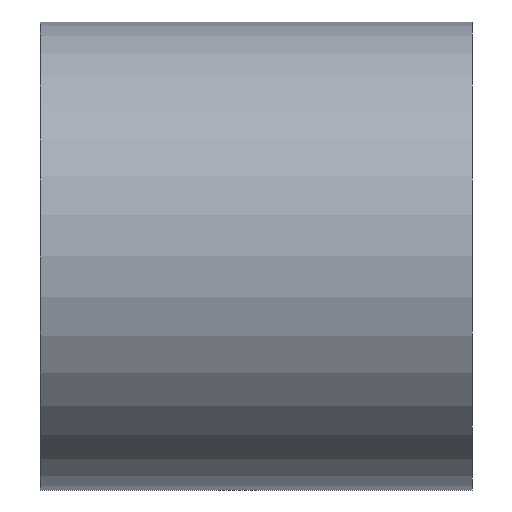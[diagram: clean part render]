
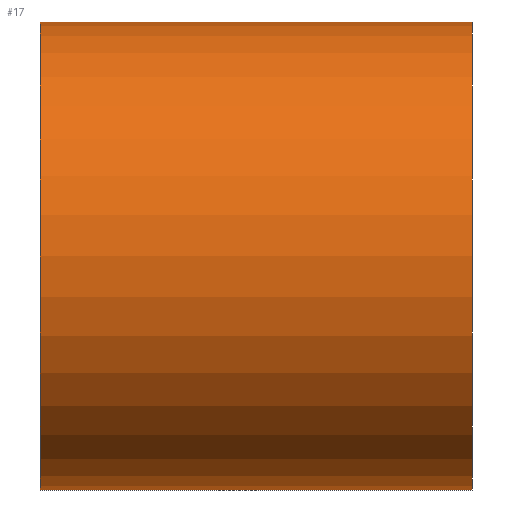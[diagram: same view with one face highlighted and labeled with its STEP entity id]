
A CAD part, front view. The second image highlights one B-rep face of the part: STEP entity #17.
In plain terms, the highlighted cylindrical face has radius 6.5 mm (diameter 13 mm), a full revolution.
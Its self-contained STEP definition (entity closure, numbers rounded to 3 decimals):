
#17 = ADVANCED_FACE('',(#18),#45,.T.);
#18 = FACE_BOUND('',#19,.T.);
#19 = EDGE_LOOP('',(#20,#29,#37,#44));
#20 = ORIENTED_EDGE('',*,*,#21,.F.);
#21 = EDGE_CURVE('',#22,#22,#24,.T.);
#22 = VERTEX_POINT('',#23);
#23 = CARTESIAN_POINT('',(6.,0.,6.5));
#24 = CIRCLE('',#25,6.5);
#25 = AXIS2_PLACEMENT_3D('',#26,#27,#28);
#26 = CARTESIAN_POINT('',(6.,0.,0.));
#27 = DIRECTION('',(1.,0.,0.));
#28 = DIRECTION('',(-0.,0.,1.));
#29 = ORIENTED_EDGE('',*,*,#30,.F.);
#30 = EDGE_CURVE('',#31,#22,#33,.T.);
#31 = VERTEX_POINT('',#32);
#32 = CARTESIAN_POINT('',(-6.,0.,6.5));
#33 = LINE('',#34,#35);
#34 = CARTESIAN_POINT('',(-6.,0.,6.5));
#35 = VECTOR('',#36,1.);
#36 = DIRECTION('',(1.,0.,0.));
#37 = ORIENTED_EDGE('',*,*,#38,.T.);
#38 = EDGE_CURVE('',#31,#31,#39,.T.);
#39 = CIRCLE('',#40,6.5);
#40 = AXIS2_PLACEMENT_3D('',#41,#42,#43);
#41 = CARTESIAN_POINT('',(-6.,0.,0.));
#42 = DIRECTION('',(1.,0.,0.));
#43 = DIRECTION('',(-0.,0.,1.));
#44 = ORIENTED_EDGE('',*,*,#30,.T.);
#45 = CYLINDRICAL_SURFACE('',#46,6.5);
#46 = AXIS2_PLACEMENT_3D('',#47,#48,#49);
#47 = CARTESIAN_POINT('',(-6.,0.,0.));
#48 = DIRECTION('',(1.,0.,0.));
#49 = DIRECTION('',(-0.,0.,1.));
